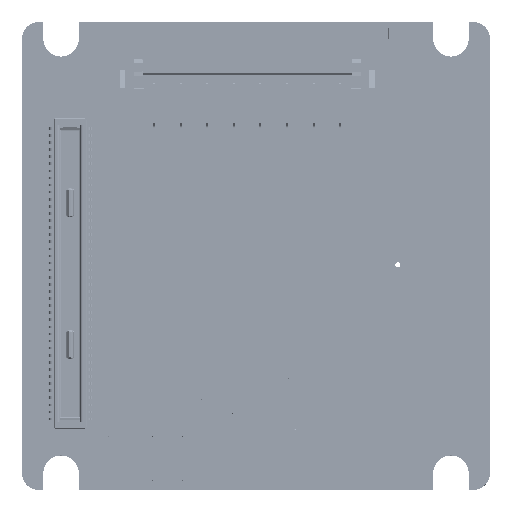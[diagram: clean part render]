
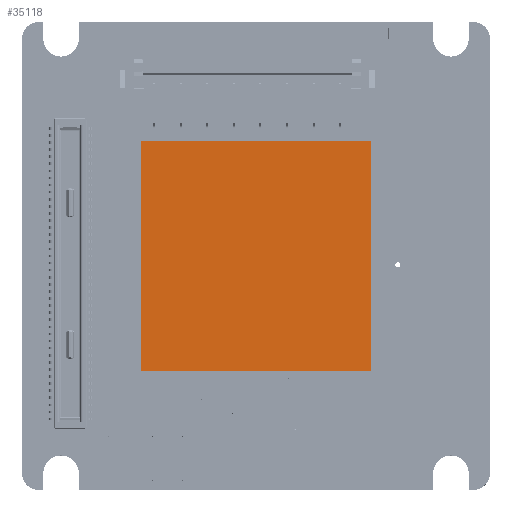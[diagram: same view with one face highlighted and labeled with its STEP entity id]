
A CAD part, top view. The second image highlights one B-rep face of the part: STEP entity #35118.
In plain terms, the highlighted planar face has unit normal (0, 0, 1).
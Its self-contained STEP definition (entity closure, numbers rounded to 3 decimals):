
#7176 = LINE ( 'NONE', #114316, #275839 ) ;
#17373 = DIRECTION ( 'NONE',  ( 0., -1., 0. ) ) ;
#35118 = ADVANCED_FACE ( 'NONE', ( #473615 ), #172957, .F. ) ;
#61431 = CARTESIAN_POINT ( 'NONE',  ( -6.5, -6.5, 6.162 ) ) ;
#94359 = CARTESIAN_POINT ( 'NONE',  ( 6.5, 6.5, 6.162 ) ) ;
#107492 = DIRECTION ( 'NONE',  ( 0., 0., -1. ) ) ;
#109650 = ORIENTED_EDGE ( 'NONE', *, *, #171177, .F. ) ;
#114316 = CARTESIAN_POINT ( 'NONE',  ( 6.5, -6.5, 6.162 ) ) ;
#125729 = LINE ( 'NONE', #547355, #509154 ) ;
#162743 = DIRECTION ( 'NONE',  ( -1., 0., 0. ) ) ;
#171177 = EDGE_CURVE ( 'NONE', #438482, #292014, #7176, .T. ) ;
#172256 = EDGE_CURVE ( 'NONE', #292014, #614937, #125729, .T. ) ;
#172957 = PLANE ( 'NONE',  #535434 ) ;
#188309 = EDGE_CURVE ( 'NONE', #614937, #319689, #641754, .T. ) ;
#213429 = CARTESIAN_POINT ( 'NONE',  ( 6.5, -6.5, 6.162 ) ) ;
#236198 = DIRECTION ( 'NONE',  ( 0., 1., 0. ) ) ;
#262205 = ORIENTED_EDGE ( 'NONE', *, *, #282897, .F. ) ;
#268981 = VECTOR ( 'NONE', #486227, 1000. ) ;
#275839 = VECTOR ( 'NONE', #162743, 1000. ) ;
#282897 = EDGE_CURVE ( 'NONE', #319689, #438482, #666813, .T. ) ;
#286987 = CARTESIAN_POINT ( 'NONE',  ( 6.5, 6.5, 6.162 ) ) ;
#292014 = VERTEX_POINT ( 'NONE', #61431 ) ;
#293958 = ORIENTED_EDGE ( 'NONE', *, *, #188309, .F. ) ;
#311504 = CARTESIAN_POINT ( 'NONE',  ( -6.5, 6.5, 6.162 ) ) ;
#319689 = VERTEX_POINT ( 'NONE', #94359 ) ;
#334034 = CARTESIAN_POINT ( 'NONE',  ( -6.5, 6.5, 6.162 ) ) ;
#351204 = EDGE_LOOP ( 'NONE', ( #109650, #262205, #293958, #385129 ) ) ;
#369863 = CARTESIAN_POINT ( 'NONE',  ( 0., 0., 6.162 ) ) ;
#385129 = ORIENTED_EDGE ( 'NONE', *, *, #172256, .F. ) ;
#438482 = VERTEX_POINT ( 'NONE', #213429 ) ;
#473615 = FACE_OUTER_BOUND ( 'NONE', #351204, .T. ) ;
#486227 = DIRECTION ( 'NONE',  ( 1., 0., 0. ) ) ;
#509154 = VECTOR ( 'NONE', #236198, 1000. ) ;
#520655 = VECTOR ( 'NONE', #670287, 1000. ) ;
#535434 = AXIS2_PLACEMENT_3D ( 'NONE', #369863, #107492, #17373 ) ;
#547355 = CARTESIAN_POINT ( 'NONE',  ( -6.5, -6.5, 6.162 ) ) ;
#614937 = VERTEX_POINT ( 'NONE', #311504 ) ;
#641754 = LINE ( 'NONE', #334034, #268981 ) ;
#666813 = LINE ( 'NONE', #286987, #520655 ) ;
#670287 = DIRECTION ( 'NONE',  ( 0., -1., 0. ) ) ;
